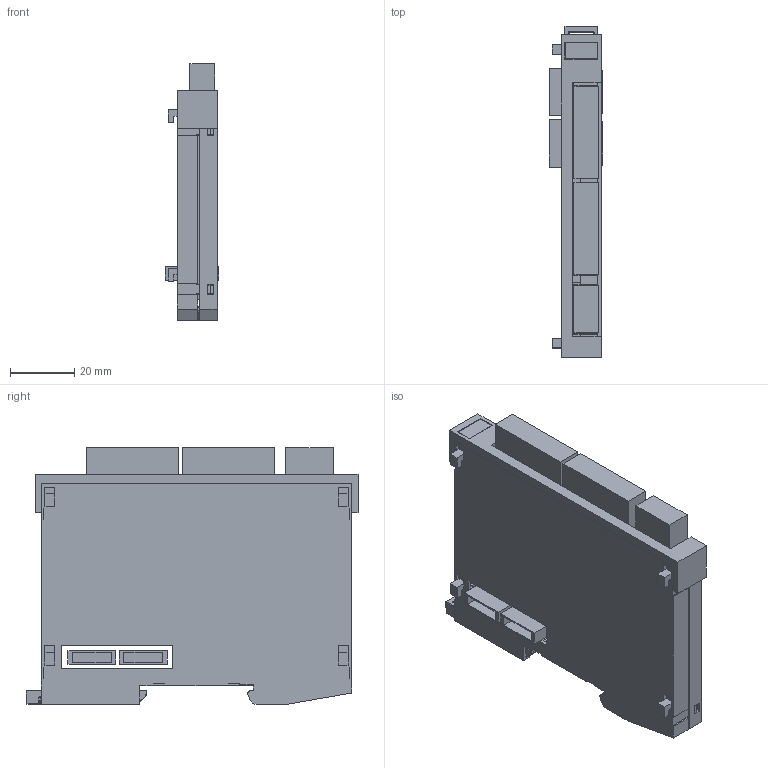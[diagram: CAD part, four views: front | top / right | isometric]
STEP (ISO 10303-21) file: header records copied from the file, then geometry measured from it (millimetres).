
FILE_DESCRIPTION (( 'STEP AP214' ), '1' );
FILE_NAME ('SSI 021.STEP', '2016-01-21T07:15:43', ( 'SIGMATEK GmbH & Co KG' ), ( 'SIGMATEK GmbH & Co KG' ), 'SwSTEP 2.0', 'SolidWorks 2015', '' );
FILE_SCHEMA (( 'AUTOMOTIVE_DESIGN' ));
Length unit declared in the file: millimetre
Products named in the file (13): LP_SSI021; Dummy_4110262104 4pol.Federkraftstecker f.2reih 1952283; Dummy_4110251205 4pol.Minicombicon-Grundgehäuse RM3,5 1937512; Dummy_4110260022 8pol.Federkraftstecker 1reih. 1952322; Dummy_______________8pol Buchse; Dummy_4080225345 Erni Buchse; Dummy_4080225346 Erni Stift; S-Dias Rasthaken 20130313; Schieber_f Suport; S-Dias Schale rechts_f Suport 2 Stecker; S-Dias Schale links_f Suport 2 Stecker; 4110251342_MF 10-5 MC CABUR_1854510000; SSI 021
Assembly tree (16 placements, depth 3):
  SSI 021
    4110251342_MF 10-5 MC CABUR_1854510000
    S-Dias Schale links_f Suport 2 Stecker
    S-Dias Schale rechts_f Suport 2 Stecker
    Schieber_f Suport
    S-Dias Rasthaken 20130313
    LP_SSI021
      Dummy_4080225346 Erni Stift  x2
      Dummy_4080225345 Erni Buchse  x2
      Dummy_______________8pol Buchse  x2
      Dummy_4110260022 8pol.Federkraftstecker 1reih. 1952322  x2
      Dummy_4110251205 4pol.Minicombicon-Grundgehäuse RM3,5 1937512
      Dummy_4110262104 4pol.Federkraftstecker f.2reih 1952283
Bounding box: 16.8 x 103.61 x 80.05 mm (x, y, z)
Volume: 34754.7 mm3; surface area: 46459.7 mm2
Topology: 15 solids, 15 shells, 811 faces, 2341 edges, 1550 vertices
Faces by surface type: plane 572, cylinder 128, bspline 55, cone 28, torus 15, sphere 13
Entity records: 30501 total; most frequent: CARTESIAN_POINT 7241, ORIENTED_EDGE 4484, DIRECTION 3503, EDGE_CURVE 2242, VECTOR 1593, LINE 1593, VERTEX_POINT 1490, AXIS2_PLACEMENT_3D 955
